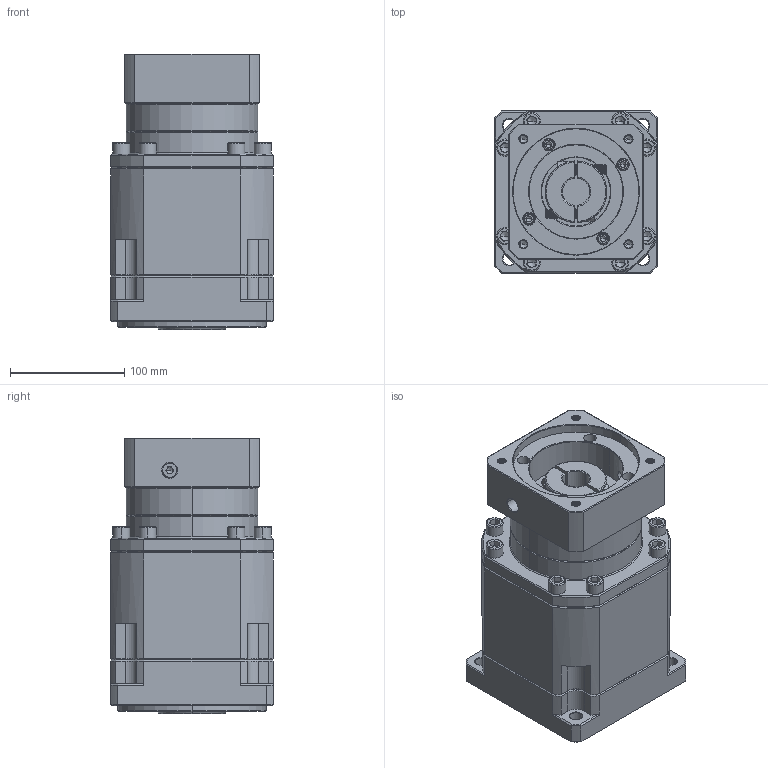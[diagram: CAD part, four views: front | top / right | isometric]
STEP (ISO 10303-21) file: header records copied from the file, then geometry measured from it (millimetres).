
FILE_DESCRIPTION (( 'STEP AP214' ), '1' );
FILE_NAME ('ZB142A-K35-L3-P2-24-110-130-M8.step', '2023-09-02T02:56:06', ( '' ), ( '' ), 'SwSTEP 2.0', 'SolidWorks 2016', '' );
FILE_SCHEMA (( 'AUTOMOTIVE_DESIGN' ));
Length unit declared in the file: millimetre
Products named in the file (1): ZB142A-K35-L3-P2-24-110-130-M8
Bounding box: 142 x 142 x 240.7 mm (x, y, z)
Volume: 3532213.3 mm3; surface area: 253444.9 mm2
Topology: 6 solids, 6 shells, 2482 faces, 6487 edges, 4130 vertices
Faces by surface type: plane 1198, cylinder 453, bspline 398, cone 377, torus 56
Entity records: 128914 total; most frequent: CARTESIAN_POINT 43700, ORIENTED_EDGE 12870, DIRECTION 10576, EDGE_CURVE 6435, VECTOR 4146, LINE 4146, VERTEX_POINT 4130, AXIS2_PLACEMENT_3D 3215
